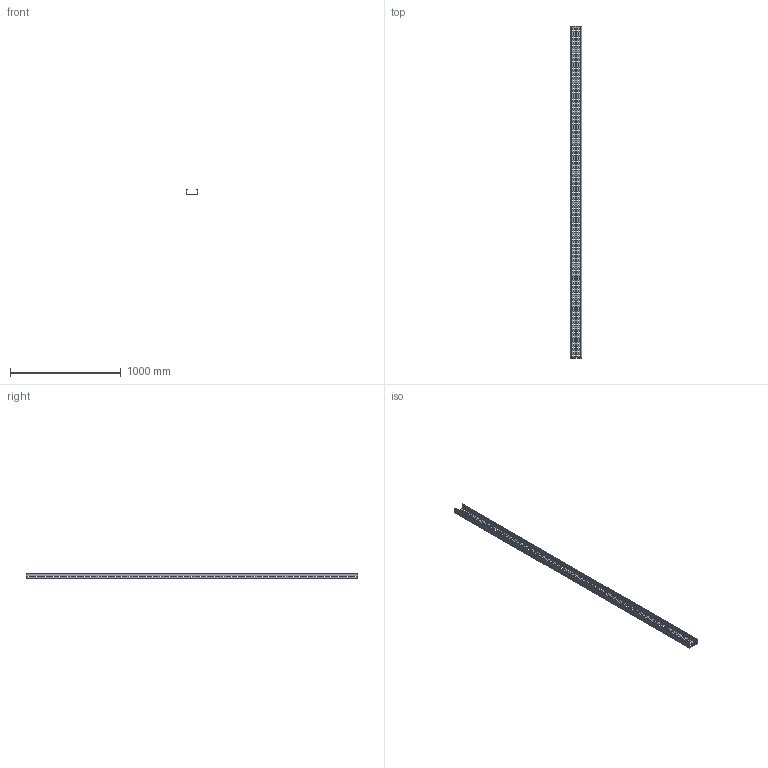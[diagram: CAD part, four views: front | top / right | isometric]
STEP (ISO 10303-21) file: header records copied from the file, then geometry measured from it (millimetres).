
FILE_DESCRIPTION(/* description */ (''),/* implementation_level */ '2;1');
FILE_NAME(/* name */ 'GE-KT2-10-A50.step',/* time_stamp */ '2023-12-27T13:23:48+03:00',/* author */ (''),/* organization */ (''),/* preprocessor_version */ 'ST-DEVELOPER v20',/* originating_system */ 'Autodesk Translation Framework v12.14.0.127',/* authorisation */ '');
FILE_SCHEMA (('AUTOMOTIVE_DESIGN { 1 0 10303 214 3 1 1 }'));
Products named in the file (1): GE-KT2-10-A50
Bounding box: 100 x 3000 x 50 mm (x, y, z)
Volume: 543363.3 mm3; surface area: 1121050.1 mm2
Topology: 1 solids, 1 shells, 1915 faces, 5707 edges, 3794 vertices
Faces by surface type: plane 966, cylinder 949
Full cylindrical faces by diameter (mm): 12 x5
Entity records: 66695 total; most frequent: DIRECTION 11437, CARTESIAN_POINT 11417, ORIENTED_EDGE 11414, EDGE_CURVE 5707, AXIS2_PLACEMENT_3D 3814, LINE 3809, VECTOR 3809, VERTEX_POINT 3794
